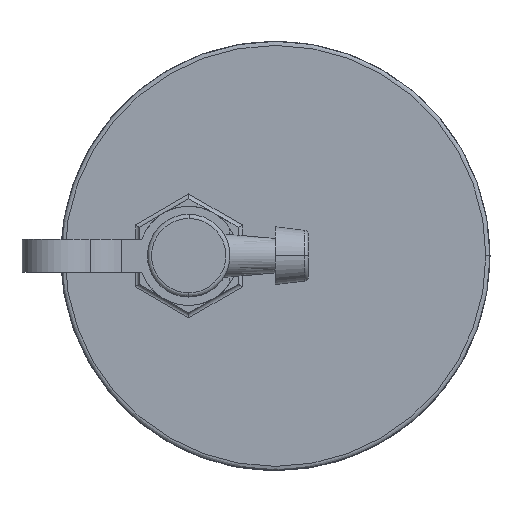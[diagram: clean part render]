
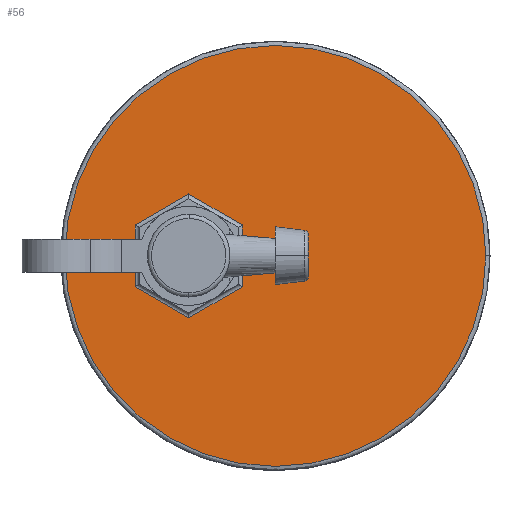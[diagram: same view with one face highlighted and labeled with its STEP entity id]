
A CAD part, top view. The second image highlights one B-rep face of the part: STEP entity #56.
In plain terms, the highlighted planar face has unit normal (0, 0, 1).
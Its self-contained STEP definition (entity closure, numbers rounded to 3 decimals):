
#56=ADVANCED_FACE('',(#286,#287),#285,.T.);
#285=PLANE('',#1026);
#286=FACE_OUTER_BOUND('',#1027,.T.);
#287=FACE_BOUND('',#1028,.T.);
#1023=CARTESIAN_POINT('',(-58.65,-53.001,12.));
#1024=DIRECTION('',(0.,0.,1.));
#1025=DIRECTION('',(1.,0.,0.));
#1026=AXIS2_PLACEMENT_3D('',#1023,#1024,#1025);
#1027=EDGE_LOOP('',(#1702,#1703));
#1028=EDGE_LOOP('',(#1704,#1705,#1706,#1707,#1708,#1709));
#1702=ORIENTED_EDGE('',*,*,#2092,.T.);
#1703=ORIENTED_EDGE('',*,*,#2093,.T.);
#1704=ORIENTED_EDGE('',*,*,#2094,.T.);
#1705=ORIENTED_EDGE('',*,*,#2095,.T.);
#1706=ORIENTED_EDGE('',*,*,#2096,.T.);
#1707=ORIENTED_EDGE('',*,*,#2097,.T.);
#1708=ORIENTED_EDGE('',*,*,#2098,.T.);
#1709=ORIENTED_EDGE('',*,*,#2099,.T.);
#2092=EDGE_CURVE('',#2626,#2627,#2628,.T.);
#2093=EDGE_CURVE('',#2627,#2626,#2634,.T.);
#2094=EDGE_CURVE('',#2640,#2641,#2642,.T.);
#2095=EDGE_CURVE('',#2641,#2648,#2649,.T.);
#2096=EDGE_CURVE('',#2648,#2655,#2656,.T.);
#2097=EDGE_CURVE('',#2655,#2662,#2663,.T.);
#2098=EDGE_CURVE('',#2662,#2669,#2670,.T.);
#2099=EDGE_CURVE('',#2669,#2640,#2676,.T.);
#2626=VERTEX_POINT('',#3840);
#2627=VERTEX_POINT('',#3841);
#2628=CIRCLE('',#3845,25.5);
#2634=CIRCLE('',#3849,25.5);
#2640=VERTEX_POINT('',#3850);
#2641=VERTEX_POINT('',#3851);
#2642=LINE('',#3852,#3853);
#2648=VERTEX_POINT('',#3855);
#2649=LINE('',#3856,#3857);
#2655=VERTEX_POINT('',#3859);
#2656=LINE('',#3860,#3861);
#2662=VERTEX_POINT('',#3863);
#2663=LINE('',#3864,#3865);
#2669=VERTEX_POINT('',#3867);
#2670=LINE('',#3868,#3869);
#2676=LINE('',#3871,#3872);
#3840=CARTESIAN_POINT('',(25.5,0.,12.));
#3841=CARTESIAN_POINT('',(-25.5,0.,12.));
#3842=CARTESIAN_POINT('',(0.,0.,12.));
#3843=DIRECTION('',(0.,0.,1.));
#3844=DIRECTION('',(1.,0.,0.));
#3845=AXIS2_PLACEMENT_3D('',#3842,#3843,#3844);
#3846=CARTESIAN_POINT('',(0.,0.,12.));
#3847=DIRECTION('',(0.,0.,1.));
#3848=DIRECTION('',(1.,0.,0.));
#3849=AXIS2_PLACEMENT_3D('',#3846,#3847,#3848);
#3850=CARTESIAN_POINT('',(-10.5,-7.502,12.));
#3851=CARTESIAN_POINT('',(-16.997,-3.751,12.));
#3852=CARTESIAN_POINT('',(-10.5,-7.502,12.));
#3853=VECTOR('',#3854,7.502);
#3854=DIRECTION('',(-0.866,0.5,0.));
#3855=CARTESIAN_POINT('',(-16.997,3.751,12.));
#3856=CARTESIAN_POINT('',(-16.997,-3.751,12.));
#3857=VECTOR('',#3858,7.502);
#3858=DIRECTION('',(0.,1.,0.));
#3859=CARTESIAN_POINT('',(-10.5,7.502,12.));
#3860=CARTESIAN_POINT('',(-16.997,3.751,12.));
#3861=VECTOR('',#3862,7.502);
#3862=DIRECTION('',(0.866,0.5,0.));
#3863=CARTESIAN_POINT('',(-4.003,3.751,12.));
#3864=CARTESIAN_POINT('',(-10.5,7.502,12.));
#3865=VECTOR('',#3866,7.502);
#3866=DIRECTION('',(0.866,-0.5,0.));
#3867=CARTESIAN_POINT('',(-4.003,-3.751,12.));
#3868=CARTESIAN_POINT('',(-4.003,3.751,12.));
#3869=VECTOR('',#3870,7.502);
#3870=DIRECTION('',(0.,-1.,0.));
#3871=CARTESIAN_POINT('',(-4.003,-3.751,12.));
#3872=VECTOR('',#3873,7.502);
#3873=DIRECTION('',(-0.866,-0.5,0.));
